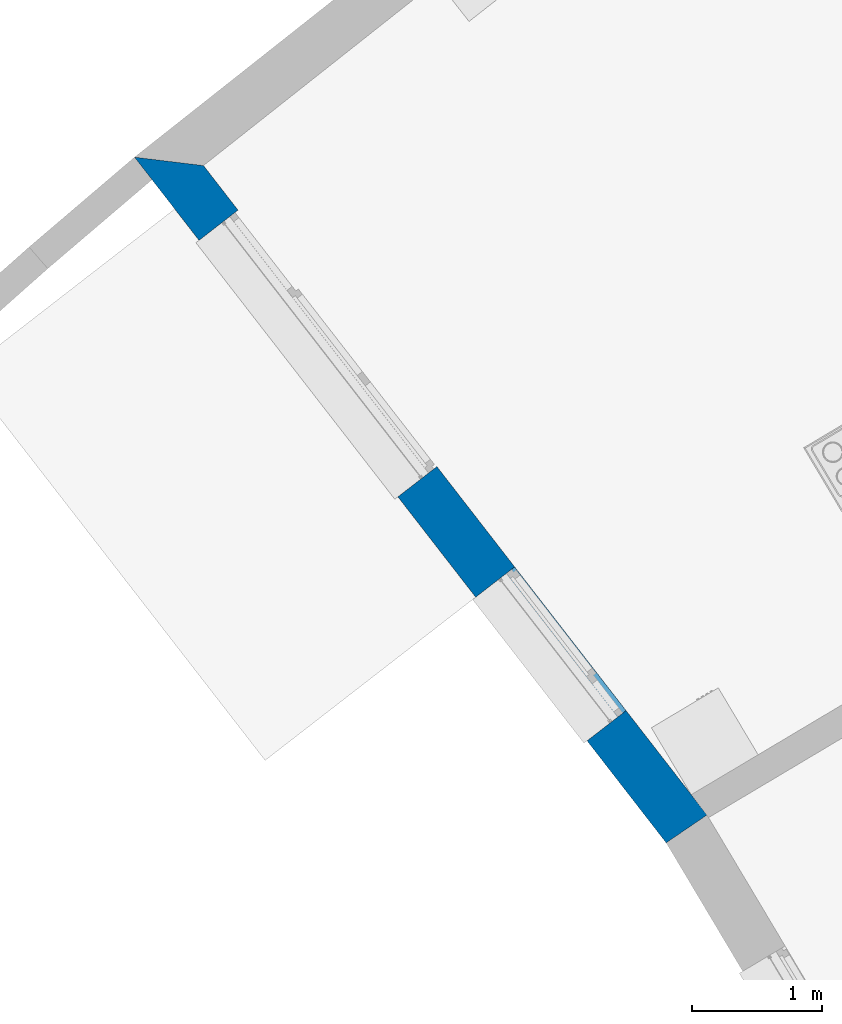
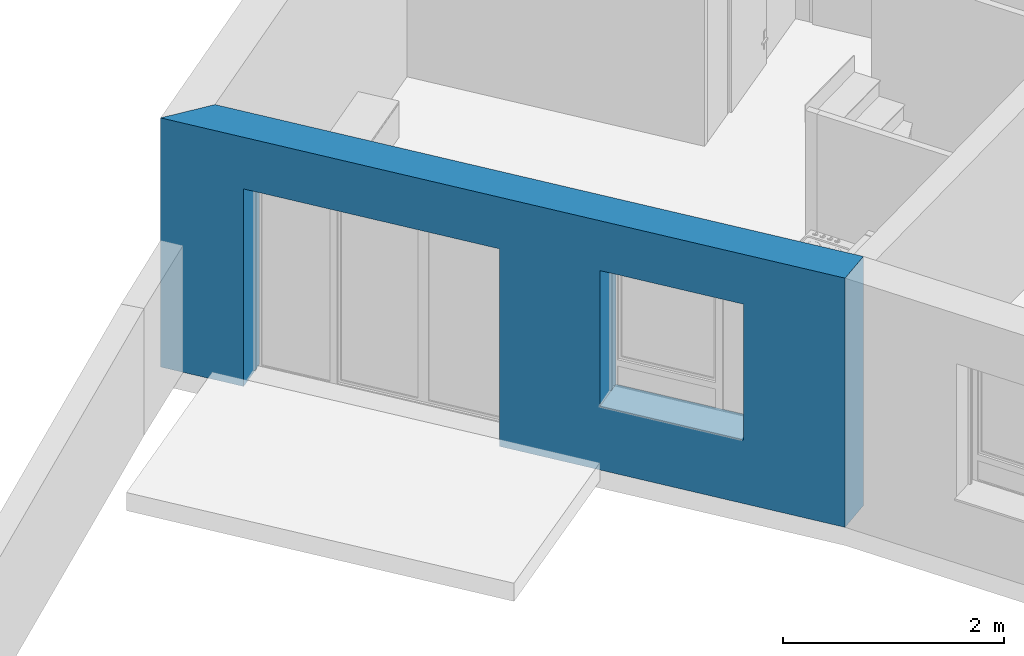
# One storey, part 41 of 195: 1 wall, 2 openings.
"""IFC2X3 building model written with IfcOpenShell, lengths in metres."""

from ifc_helpers import new_model, entity, si_unit, converted_unit, derived_unit, money_unit, direction, frame, origin_with_axes, place, context, subcontext, project, spatial, polyline, outline, extrude, faceted_brep, material, layer, layer_set, layer_usage, type_object, element, save


model = new_model("IFC2X3")

# Units and contexts
model_context = context("Model", 3, precision=1e-05, world=origin_with_axes(), true_north=direction((0.0, 1.0)))
body_context = subcontext(model_context, "Body", "Model", "MODEL_VIEW")
ifc_project = project(units=[si_unit("LENGTHUNIT", "METRE"), si_unit("AREAUNIT", "SQUARE_METRE"), si_unit("VOLUMEUNIT", "CUBIC_METRE"), converted_unit("PLANEANGLEUNIT", "DEGREE", entity("IfcPlaneAngleMeasure", 0.0174532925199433), si_unit("PLANEANGLEUNIT", "RADIAN"), dimensions=[0, 0, 0, 0, 0, 0, 0]), money_unit("CHF"), converted_unit("TIMEUNIT", "Year", entity("IfcTimeMeasure", 31557600.0), si_unit("TIMEUNIT", "SECOND"), dimensions=[0, 0, 1, 0, 0, 0, 0]), si_unit("MASSUNIT", "GRAM", prefix="KILO"), si_unit("THERMODYNAMICTEMPERATUREUNIT", "DEGREE_CELSIUS"), si_unit("LUMINOUSINTENSITYUNIT", "LUMEN"), si_unit("ENERGYUNIT", "JOULE", prefix="MEGA"), derived_unit("THERMALCONDUCTANCEUNIT", [(si_unit("POWERUNIT", "WATT"), 1), (si_unit("LENGTHUNIT", "METRE"), -1), (si_unit("THERMODYNAMICTEMPERATUREUNIT", "KELVIN"), -1)]), derived_unit("SPECIFICHEATCAPACITYUNIT", [(si_unit("ENERGYUNIT", "JOULE"), 1), (si_unit("MASSUNIT", "GRAM", prefix="KILO"), -1), (si_unit("THERMODYNAMICTEMPERATUREUNIT", "KELVIN"), -1)]), derived_unit("MASSDENSITYUNIT", [(si_unit("MASSUNIT", "GRAM", prefix="KILO"), 1), (si_unit("VOLUMEUNIT", "CUBIC_METRE"), -1)])], contexts=[model_context])

# Site, building, storey
site_placement = place(None, origin_with_axes())
site = spatial("IfcSite", under=ifc_project, at=site_placement, Name="Site", CompositionType="ELEMENT")
building_placement = place(site_placement, origin_with_axes())
building = spatial("IfcBuilding", under=site, at=building_placement, Name="Bâtiment", CompositionType="ELEMENT")
storey_placement = place(building_placement, origin_with_axes())
storey = spatial("IfcBuildingStorey", under=building, at=storey_placement, Name="rdc", CompositionType="ELEMENT", Elevation=0.0)

# Wall, openings
ifc_material_1 = material(Name="Parpaing 312445824")
ifc_layer_1 = layer(ifc_material_1, 0.22, ventilated="UNKNOWN")
ifc_material_2 = material(Name="Isolant styromousse 301821074")
ifc_layer_2 = layer(ifc_material_2, 0.16, ventilated="UNKNOWN")
ifc_layer_set = layer_set([ifc_layer_1, ifc_layer_2], Name="isol int 22+16 0836643197")
ifc_layer_usage = layer_usage(ifc_layer_set, "AXIS2", "NEGATIVE", 0.0)
wall_type = type_object("IfcWallType", Name="isol int 22+16 0836643197 380", PredefinedType="NOTDEFINED")
wall_placement = place(storey_placement, frame((9538.446702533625, -1047.206277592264, 57.7), z_axis=(0.0, 0.0, 1.0), x_axis=(-0.6127569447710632, 0.7902714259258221, 0.0)))
wall = element("IfcWallStandardCase", 1, at=wall_placement, inside=storey, type_object=wall_type, material=ifc_layer_usage, Name="Mur-112", context=body_context, shape_type="SweptSolid", body=[
    extrude(outline(polyline([(-0.02325286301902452, -0.3799999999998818), (6.307653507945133, -0.3799999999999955), (6.684138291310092, 0.0), (0.0, 0.0), (-0.02325286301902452, -0.3799999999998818)])), origin_with_axes(), (0.0, 0.0, 1.0), 2.75),
])
opening_1_placement = place(wall_placement, frame((4.622913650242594, 0.0, 0.0), z_axis=(0.0, 0.0, 1.0), x_axis=(1.0, 0.0, 0.0)))
element("IfcOpeningElement", 2, at=opening_1_placement, cuts=wall, Name="Fen-045", context=body_context, shape_type="Brep", body=[
    faceted_brep([(1.249999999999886, -0.4800000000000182, 2.18), (-1.250000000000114, -0.4800000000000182, 2.18), (-1.25, -3.617755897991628, 2.18), (1.25, -3.617755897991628, 2.18), (1.249999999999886, -0.4800000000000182, 2.380000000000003), (-1.250000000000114, -0.4800000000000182, 2.380000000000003), (-1.250000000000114, -0.2999999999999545, 2.18), (-1.250000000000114, -0.2999999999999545, 0.0), (-1.25, -3.617755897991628, 0.0), (1.25, -3.617755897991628, 0.0), (1.25, -0.2999999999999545, 2.18), (1.25, -0.2999999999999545, 0.0), (1.25, -0.2200000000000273, 2.18), (1.25, -0.2200000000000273, 2.380000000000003), (-1.25, -0.2200000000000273, 2.380000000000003), (-1.25, -0.2200000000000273, 2.18), (-1.250000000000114, 3.237755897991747, 2.18), (-1.250000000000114, 3.237755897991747, 0.0), (1.249999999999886, 3.23775589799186, 0.0), (1.249999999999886, 3.23775589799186, 2.18)], [[[0, 1, 2, 3]], [[1, 0, 4, 5]], [[1, 6, 7, 8, 2]], [[2, 8, 9, 3]], [[10, 0, 3, 9, 11]], [[0, 10, 12, 13, 4]], [[4, 13, 14, 5]], [[6, 1, 5, 14, 15]], [[6, 15, 16, 17, 7]], [[7, 11, 9, 8]], [[12, 10, 11, 18, 19]], [[12, 15, 14, 13]], [[15, 12, 19, 16]], [[19, 18, 17, 16]], [[11, 7, 17, 18]]]),
])
opening_2_placement = place(wall_placement, frame((1.694722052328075, 0.0, 0.7000000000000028), z_axis=(0.0, 0.0, 1.0), x_axis=(1.0, 0.0, 0.0)))
element("IfcOpeningElement", 3, at=opening_2_placement, cuts=wall, Name="Fen-045", context=body_context, shape_type="Brep", body=[
    faceted_brep([(0.7000000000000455, -0.4800000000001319, 1.5), (-0.6999999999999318, -0.4800000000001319, 1.5), (-0.6999999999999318, -3.617755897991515, 1.5), (0.7000000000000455, -3.617755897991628, 1.5), (0.7000000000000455, -0.4800000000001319, 1.700000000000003), (-0.6999999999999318, -0.4800000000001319, 1.700000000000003), (-0.6999999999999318, -0.3000000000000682, 1.5), (-0.6999999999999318, -0.3000000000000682, 0.0), (-0.6999999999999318, -3.617755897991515, 0.0), (0.7000000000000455, -3.617755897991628, 0.0), (0.7000000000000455, -0.3000000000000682, 1.5), (0.7000000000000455, -0.3000000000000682, 0.0), (0.7000000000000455, -0.2200000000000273, 1.5), (0.7000000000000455, -0.2200000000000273, 1.700000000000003), (-0.6999999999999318, -0.2200000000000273, 1.700000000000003), (-0.6999999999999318, -0.2200000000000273, 1.5), (-0.6999999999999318, 3.237755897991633, 1.5), (-0.6999999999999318, 3.237755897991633, 0.0), (0.7000000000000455, 3.237755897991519, 0.0), (0.7000000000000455, 3.237755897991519, 1.5)], [[[0, 1, 2, 3]], [[1, 0, 4, 5]], [[1, 6, 7, 8, 2]], [[2, 8, 9, 3]], [[10, 0, 3, 9, 11]], [[0, 10, 12, 13, 4]], [[14, 5, 4, 13]], [[6, 1, 5, 14, 15]], [[6, 15, 16, 17, 7]], [[7, 11, 9, 8]], [[12, 10, 11, 18, 19]], [[12, 15, 14, 13]], [[15, 12, 19, 16]], [[19, 18, 17, 16]], [[11, 7, 17, 18]]]),
])

save(model, "model.ifc")
